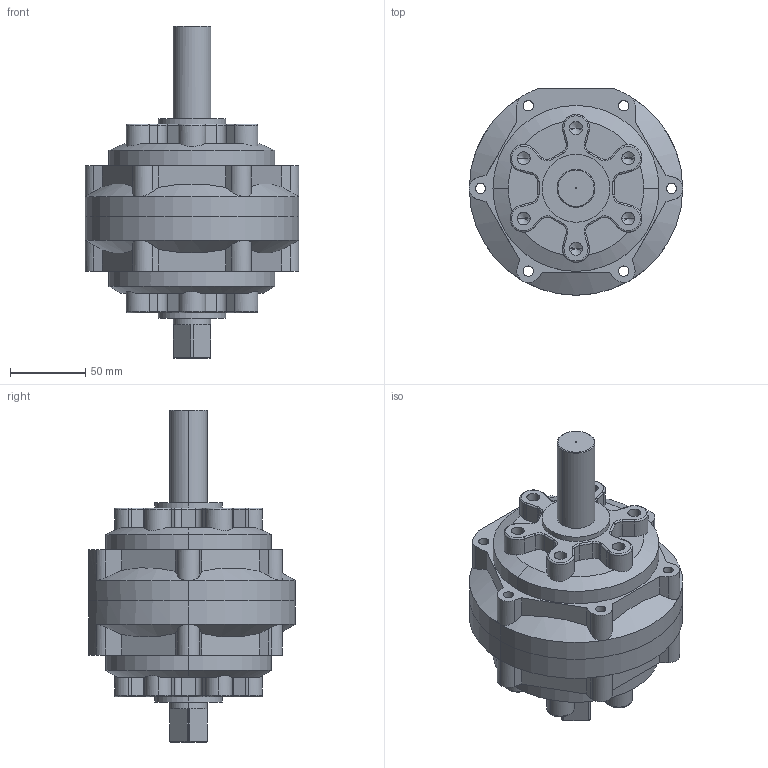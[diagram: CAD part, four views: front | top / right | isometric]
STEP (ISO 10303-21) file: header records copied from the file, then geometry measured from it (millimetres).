
FILE_DESCRIPTION (( 'STEP AP203' ), '1' );
FILE_NAME ('PRN300.STEP', '2016-01-14T16:44:58', ( '' ), ( '' ), 'SwSTEP 2.0', 'SolidWorks 2014', '' );
FILE_SCHEMA (( 'CONFIG_CONTROL_DESIGN' ));
Length unit declared in the file: millimetre
Products named in the file (5): PRN300 (2); mark-PRN300; PRN300 (3); PRN300 (1); PRN300
Assembly tree (4 placements, depth 2):
  PRN300
    PRN300 (2)
    PRN300 (1)
    PRN300 (3)
    mark-PRN300
Bounding box: 141.5 x 136.88 x 220 mm (x, y, z)
Volume: 1355860.2 mm3; surface area: 153393.2 mm2
Topology: 10 solids, 10 shells, 494 faces, 1250 edges, 771 vertices
Faces by surface type: cylinder 205, plane 176, cone 53, torus 52, bspline 8
Entity records: 16078 total; most frequent: CARTESIAN_POINT 3554, DIRECTION 2625, ORIENTED_EDGE 2444, EDGE_CURVE 1222, AXIS2_PLACEMENT_3D 1006, VERTEX_POINT 771, LINE 613, VECTOR 613
